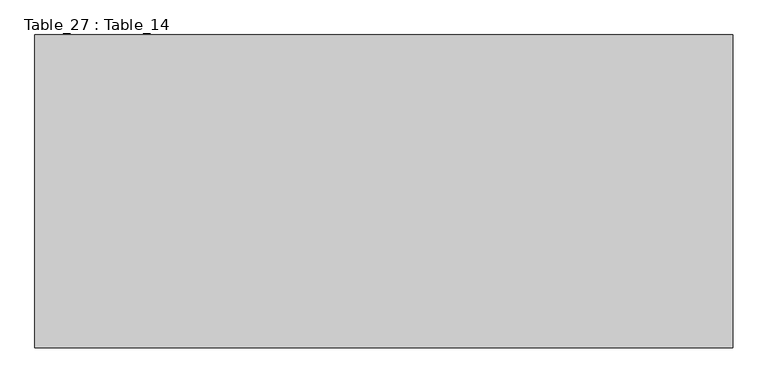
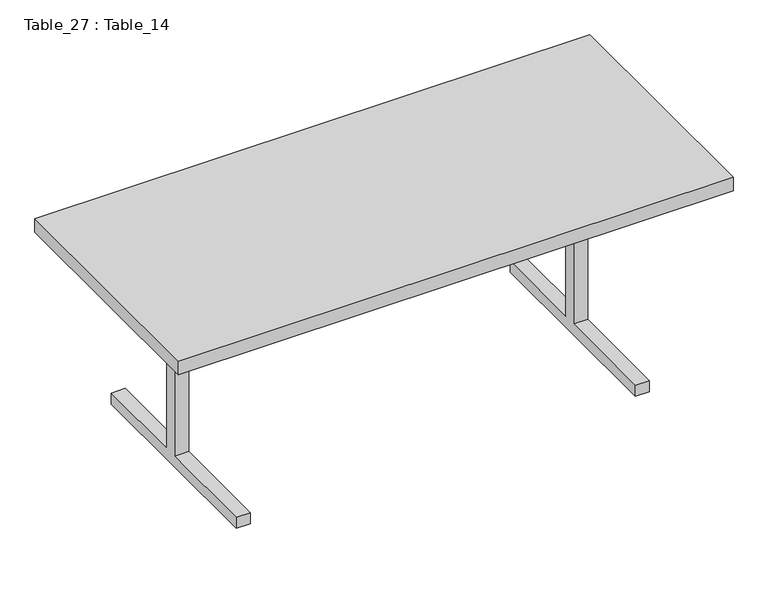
"""IFC4 building model written with IfcOpenShell, lengths in millimetres: furniture geometry, Table_27 : Table_14."""

from ifc_helpers import new_model, si_unit, frame, origin, place, context, project, spatial, polyline, outline, extrude, source, transform, mapped, element, save


def table_27_table_14_e3094293(model_context):
    return source(origin(), model_context, "Body", "SweptSolid", [
        extrude(outline(polyline([(9434.0657724, 4112.2824803), (9434.0657724, 4072.2824803), (9086.5623128, 4072.2824803), (9086.5623128, 3442.2824803), (9434.0657724, 3442.2824803), (9434.0657724, 3400.0), (8650.1319825, 3400.0), (8650.1319825, 3442.2824803), (9036.5623128, 3442.2824803), (9036.5623128, 4072.2824803), (8694.0657724, 4072.2824803), (8694.0657724, 4112.2824803), (9434.0657724, 4112.2824803)])), frame((-4284.9403366, 0.0, 0.0), z_axis=(1.0, 0.0, 0.0), x_axis=(0.0, 1.0, 0.0)), (0.0, 0.0, 1.0), 50.7227116),
        extrude(outline(polyline([(9434.0657724, 4112.2824803), (9434.0657724, 4072.2824803), (9086.5623128, 4072.2824803), (9086.5623128, 3442.2824803), (9434.0657724, 3442.2824803), (9434.0657724, 3400.0), (8650.1319825, 3400.0), (8650.1319825, 3442.2824803), (9036.5623128, 3442.2824803), (9036.5623128, 4072.2824803), (8694.0657724, 4072.2824803), (8694.0657724, 4112.2824803), (9434.0657724, 4112.2824803)])), frame((-2839.9403366, 0.0, 0.0), z_axis=(1.0, 0.0, 0.0), x_axis=(0.0, 1.0, 0.0)), (0.0, 0.0, 1.0), 50.7227116),
        extrude(outline(polyline([(-2521.7880726, 9487.8925668), (-2521.7880726, 8588.2374199), (-4530.2567118, 8588.2374199), (-4530.2567118, 9487.8925668), (-2521.7880726, 9487.8925668)])), frame((0.0, 0.0, 4112.2824803), z_axis=(0.0, 0.0, 1.0), x_axis=(1.0, 0.0, 0.0)), (0.0, 0.0, 1.0), 51.2662316),
    ])


if __name__ == "__main__":
    model = new_model("IFC4")
    model_context = context("Model", 3, world=origin())
    ifc_project = project(units=[si_unit("LENGTHUNIT", "METRE", prefix="MILLI")], contexts=[model_context])
    site = spatial("IfcSite", under=ifc_project)
    building = spatial("IfcBuilding", under=site)
    placement = place(None, origin())
    table_27_table_14_shape = table_27_table_14_e3094293(model_context)
    element("IfcFurniture", 1, ObjectType="Table_27 : Table_14", at=placement, inside=building, context=model_context, shape_type="MappedRepresentation", body=[
        mapped(table_27_table_14_shape, transform((0.0, 0.0, 0.0), x_axis=(1.0, 0.0, 0.0), y_axis=(0.0, 1.0, 0.0), z_axis=(0.0, 0.0, 1.0))),
    ])
    save(model, "model.ifc")
